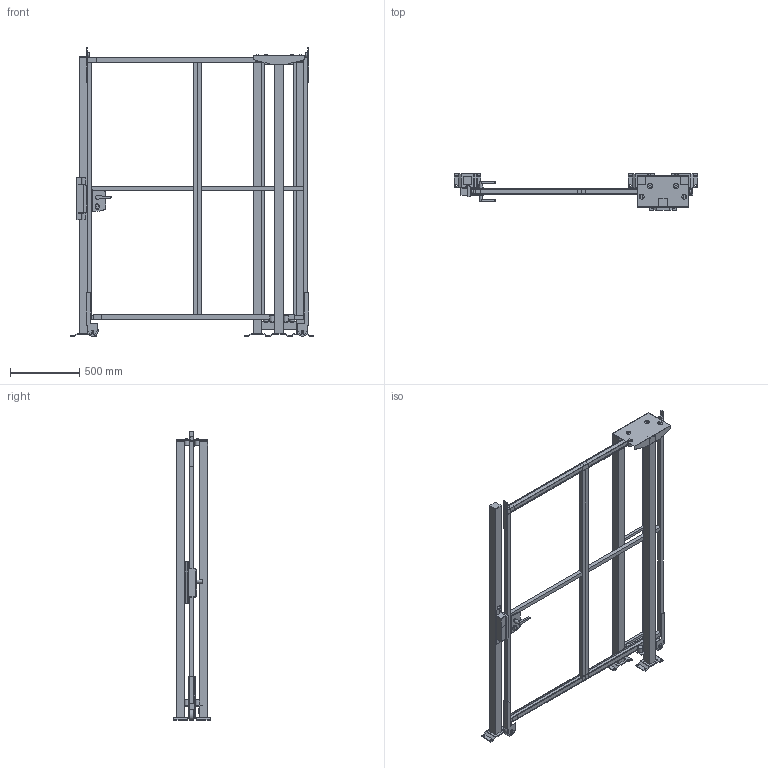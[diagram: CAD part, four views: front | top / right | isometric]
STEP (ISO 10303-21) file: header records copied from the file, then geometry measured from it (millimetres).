
FILE_DESCRIPTION(/* description */ (''),/* implementation_level */ '2;1');
FILE_NAME(/* name */ 'C:\SafeGuarding\ELABORATI\KLADKOUGAMMA_2025-03-20-13-05-50.stp',/* time_stamp */ '2025-03-20T13:05:53+01:00',/* author */ ('admin'),/* organization */ (''),/* preprocessor_version */ 'ST-DEVELOPER v18.1',/* originating_system */ 'AutoCAD Mechanical',/* authorisation */ '');
FILE_SCHEMA (('AUTOMOTIVE_DESIGN { 1 0 10303 214 3 1 1 }','TECHNICAL_DATA_PACKAGING'));
Length unit declared in the file: millimetre
Products named in the file (4): Product; R_VFPA.REPE30.08001900; R_VFPA.REPE20.02501900; P_VFMA.V260SDU.2020
Assembly tree (7 placements, depth 2):
  Product
    R_VFPA.REPE30.08001900  x2
    P_VFMA.V260SDU.2020  x4
    R_VFPA.REPE20.02501900
Bounding box: 1762 x 264 x 2090.02 mm (x, y, z)
Volume: 46261157.4 mm3; surface area: 6248688.9 mm2
Topology: 68 solids, 68 shells, 608 faces, 1728 edges, 1674 vertices
Faces by surface type: plane 530, cylinder 74, bspline 4
Full cylindrical faces by diameter (mm): 9 x4, 11 x16, 13 x4, 18 x1, 25 x2, 25.398 x2, 30 x6, 36 x8, 80 x2
Entity records: 16781 total; most frequent: CARTESIAN_POINT 4339, DIRECTION 2495, ORIENTED_EDGE 2254, EDGE_CURVE 1127, LINE 1075, VECTOR 1075, VERTEX_POINT 758, AXIS2_PLACEMENT_3D 710
